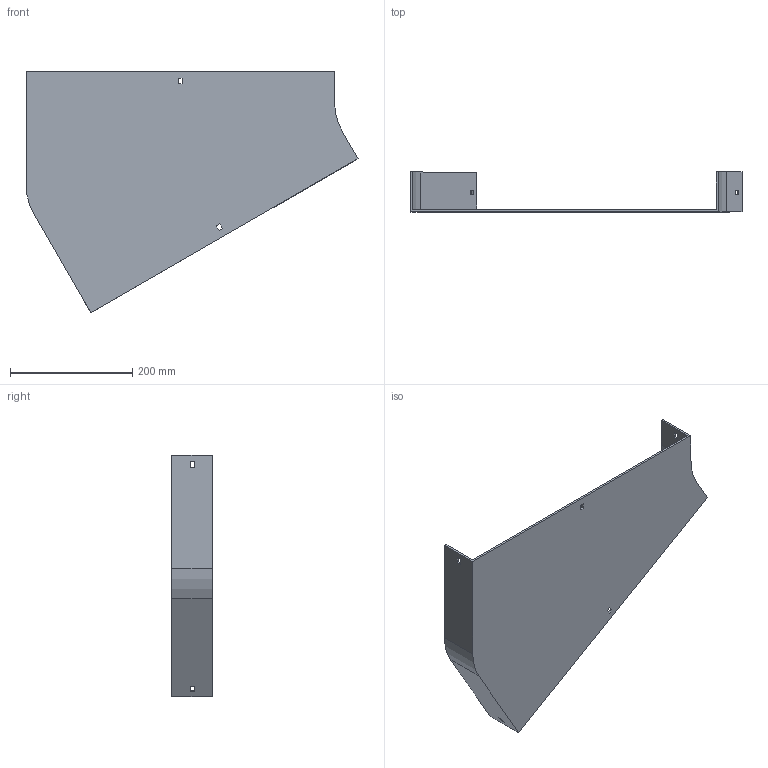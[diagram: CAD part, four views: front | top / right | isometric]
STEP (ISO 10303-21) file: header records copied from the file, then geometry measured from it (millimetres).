
FILE_DESCRIPTION (( 'STEP AP214' ), '1' );
FILE_NAME ('12B1H500.step', '2025-02-21T09:35:13', ( '' ), ( '' ), 'SwSTEP 2.0', 'SolidWorks 2023', '' );
FILE_SCHEMA (( 'AUTOMOTIVE_DESIGN' ));
Length unit declared in the file: millimetre
Products named in the file (1): 12B1H500
Bounding box: 542.4 x 65.5 x 395.3 mm (x, y, z)
Volume: 632499.1 mm3; surface area: 368528.9 mm2
Topology: 1 solids, 1 shells, 42 faces, 120 edges, 80 vertices
Faces by surface type: plane 38, cylinder 4
Entity records: 1399 total; most frequent: CARTESIAN_POINT 243, ORIENTED_EDGE 240, DIRECTION 214, EDGE_CURVE 120, VECTOR 112, LINE 112, VERTEX_POINT 80, EDGE_LOOP 54
